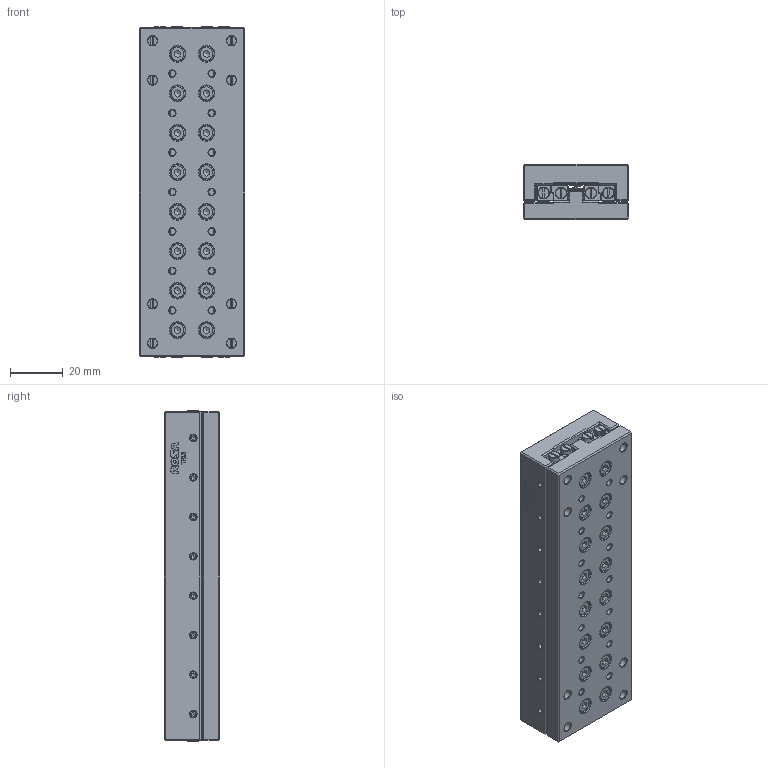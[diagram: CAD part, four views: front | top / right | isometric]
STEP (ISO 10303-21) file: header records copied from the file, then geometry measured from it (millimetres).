
FILE_DESCRIPTION(/* description */ ('Tavola TRL02 L=125 mm'),/* implementation_level */ '2;1');
FILE_NAME(/* name */ 'TRL020125-00.stp',/* time_stamp */ '2024-01-31T08:43:26+01:00',/* author */ ('Rosa sistemi'),/* organization */ (''),/* preprocessor_version */ 'ST-DEVELOPER v20',/* originating_system */ 'Autodesk Inventor 2024',/* authorisation */ '');
FILE_SCHEMA (('AUTOMOTIVE_DESIGN { 1 0 10303 214 3 1 1 }'));
Products named in the file (2): TRL020125-00; TRL020125-00_1
Assembly tree (1 placements, depth 2):
  TRL020125-00
    TRL020125-00_1
Bounding box: 40 x 21 x 125.6 mm (x, y, z)
Volume: 94481.2 mm3; surface area: 41762.5 mm2
Topology: 17 solids, 17 shells, 2152 faces, 5570 edges, 3612 vertices
Faces by surface type: plane 1367, cylinder 302, cone 247, bspline 156, torus 80
Full cylindrical faces by diameter (mm): 0.774 x4, 1.039 x1, 2 x5, 2.128 x4, 2.459 x46, 2.856 x1, 3 x32, 3.5 x8, 4.4 x32, 5.5 x32, 6 x40
Entity records: 67630 total; most frequent: CARTESIAN_POINT 14353, ORIENTED_EDGE 11060, DIRECTION 10234, EDGE_CURVE 5530, VERTEX_POINT 3612, AXIS2_PLACEMENT_3D 3419, LINE 3396, VECTOR 3396
